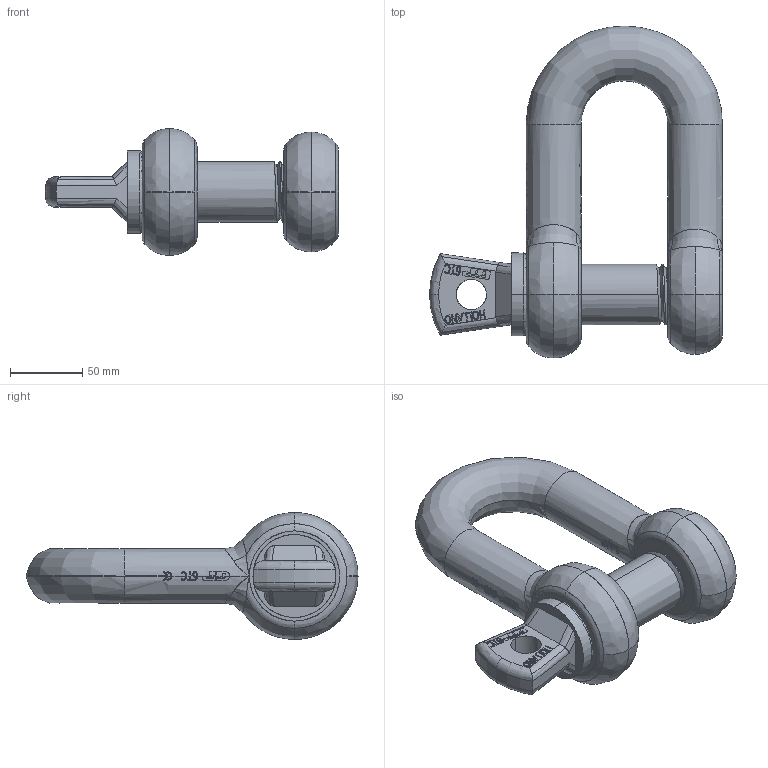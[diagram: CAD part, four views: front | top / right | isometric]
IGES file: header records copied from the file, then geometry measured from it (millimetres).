
Start section: START RECORD GO HERE.
Global section: file name: 17.igs; native system: Solidworks 2009      A Version 5 Release 17 ; preprocessor: Solidworks                 ; author: v.b.; organization: P4; date: 20090807.081657; units: millimetre
Bounding box: 203 x 230 x 88 mm (x, y, z)
Surface area: 114156.6 mm2 (no closed solid volume)
Topology: 0 solids, 0 shells, 704 faces, 4449 edges, 4441 vertices
Faces by surface type: plane 290, bspline 272, revolution 142
